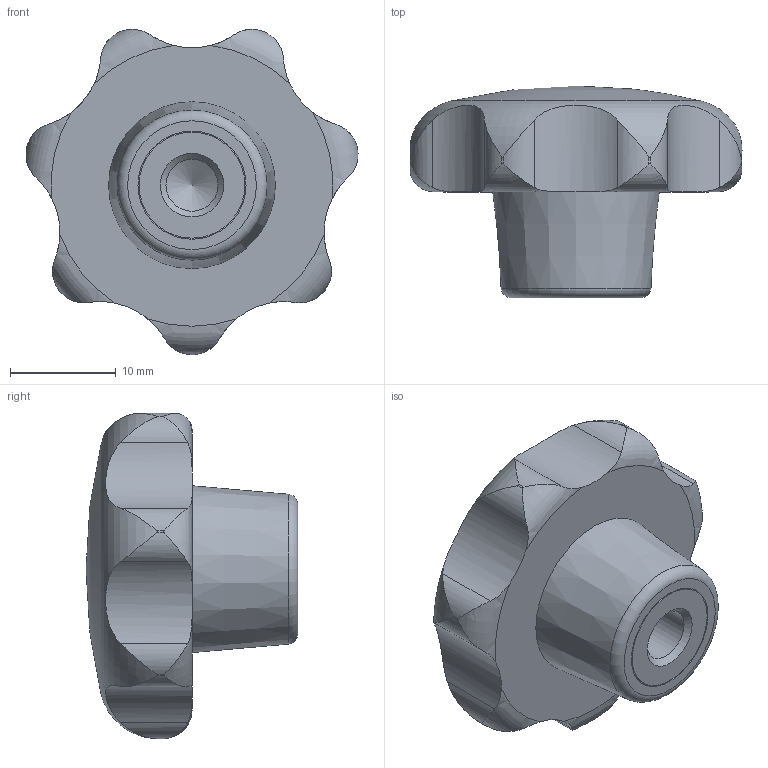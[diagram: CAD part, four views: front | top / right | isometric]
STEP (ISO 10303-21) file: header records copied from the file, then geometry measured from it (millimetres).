
FILE_DESCRIPTION( ( 'STEP AP203' ), '1' );
FILE_NAME( 'C:/Temp/Ganter_Step_05_03_2020/data/2_2/din_6336/din_6336_ku/din_6336_ku_k/Star knob DIN 6336-KU-32-M6-K-NI.stp', '2020-03-05T12:13:38', ( 'License CC BY-ND 4.0' ), ( 'CADENAS' ), ' ', 'PARTsolutions', ' ' );
FILE_SCHEMA( ( 'CONFIG_CONTROL_DESIGN' ) );
Length unit declared in the file: millimetre
Products named in the file (1): _Star knob DIN 6336-KU-32-M6-K-NI
Bounding box: 31.34 x 20 x 30.71 mm (x, y, z)
Volume: 7186.9 mm3; surface area: 2583.4 mm2
Topology: 1 solids, 1 shells, 48 faces, 129 edges, 85 vertices
Faces by surface type: cylinder 31, torus 9, plane 4, cone 3, sphere 1
Full cylindrical faces by diameter (mm): 4.917 x1, 10 x1, 10.2 x1
Entity records: 2092 total; most frequent: CARTESIAN_POINT 959, ORIENTED_EDGE 232, DIRECTION 204, EDGE_CURVE 116, AXIS2_PLACEMENT_3D 88, VERTEX_POINT 83, EDGE_LOOP 59, FACE_OUTER_BOUND 53
